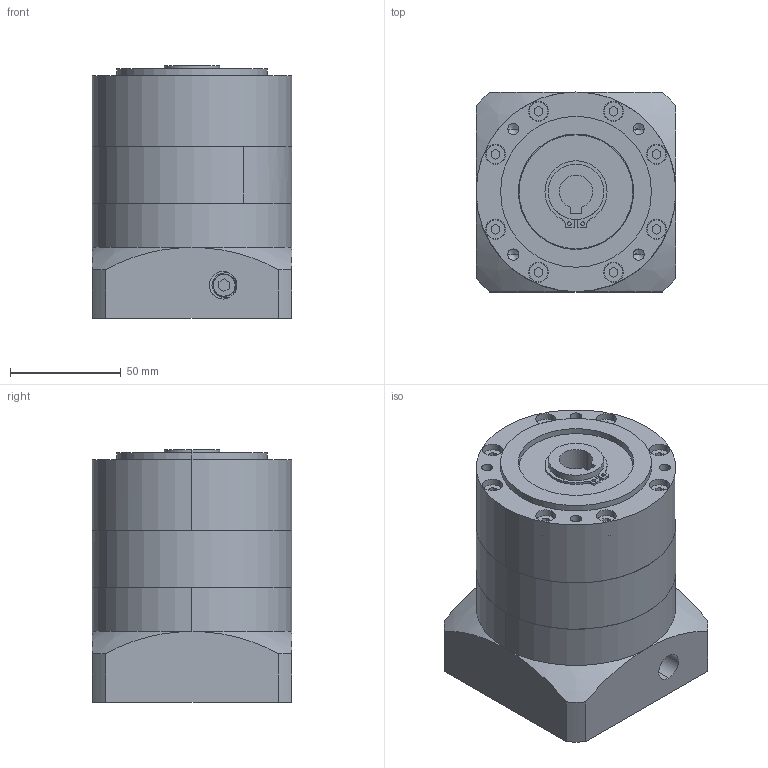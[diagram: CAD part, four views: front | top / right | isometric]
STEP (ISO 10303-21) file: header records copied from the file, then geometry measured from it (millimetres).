
FILE_DESCRIPTION (( 'STEP AP203' ), '1' );
FILE_NAME ('PRN90-L1-19-70-90.STEP', '2022-07-23T08:37:34', ( 'Windows User' ), ( 'P R C' ), 'SwSTEP 2.0', 'SolidWorks 2016', '' );
FILE_SCHEMA (( 'CONFIG_CONTROL_DESIGN' ));
Length unit declared in the file: millimetre
Products named in the file (7): PBE90 奻屳唳; PRN90-L1-19-70-90; PBE90 κｳﾝﾈｦ-ﾓﾅｻｯ_ﾒｻｼｶﾄﾚｳﾝﾈｦ; PBE90 狟屳唳_D6-90 D7-19 梓袧; 囀鞠褒蹟佪 M6x20; 粣創-6007 35x62x14; PBE90 蟀諉啣-梓袧_D8-70 D9-90 D10-M5 A2-90 L4-32 L6-47(32+15) L7-6 R-59.5梓袧
Assembly tree (6 placements, depth 2):
  PRN90-L1-19-70-90
    PBE90 κｳﾝﾈｦ-ﾓﾅｻｯ_ﾒｻｼｶﾄﾚｳﾝﾈｦ
    PBE90 狟屳唳_D6-90 D7-19 梓袧
    囀鞠褒蹟佪 M6x20
    粣創-6007 35x62x14
    PBE90 蟀諉啣-梓袧_D8-70 D9-90 D10-M5 A2-90 L4-32 L6-47(32+15) L7-6 R-59.5梓袧
    PBE90 奻屳唳
Bounding box: 90 x 90 x 114 mm (x, y, z)
Volume: 647878.2 mm3; surface area: 138570.4 mm2
Topology: 6 solids, 6 shells, 1056 faces, 2823 edges, 1861 vertices
Faces by surface type: plane 553, bspline 297, cylinder 188, cone 18
Entity records: 44754 total; most frequent: CARTESIAN_POINT 19473, ORIENTED_EDGE 5614, DIRECTION 4268, EDGE_CURVE 2807, VERTEX_POINT 1861, AXIS2_PLACEMENT_3D 1428, LINE 1412, VECTOR 1412
